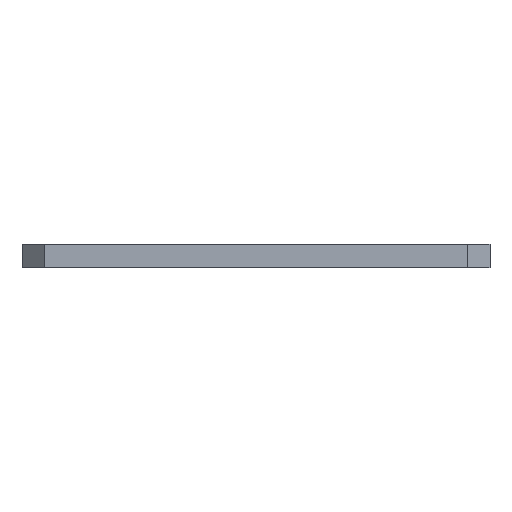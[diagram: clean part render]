
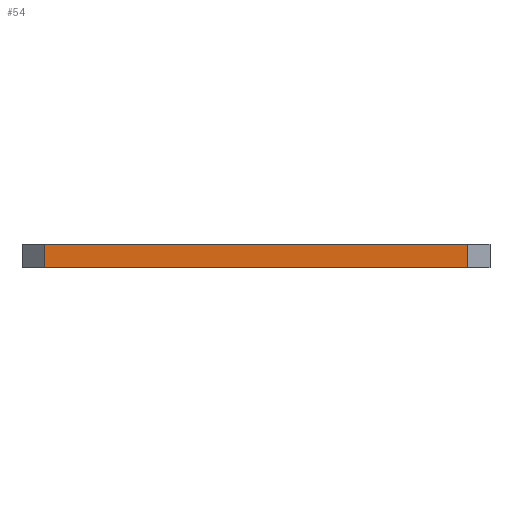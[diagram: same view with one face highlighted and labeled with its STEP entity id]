
A CAD part, left-side view. The second image highlights one B-rep face of the part: STEP entity #54.
In plain terms, the highlighted planar face has unit normal (-1, 0, 0).
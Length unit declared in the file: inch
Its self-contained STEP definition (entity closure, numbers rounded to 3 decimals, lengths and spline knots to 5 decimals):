
#2 = CARTESIAN_POINT ( 'NONE',  ( -1.82444, -0.80125, 0.09 ) ) ;
#54 = ADVANCED_FACE ( 'NONE', ( #1142 ), #1013, .F. ) ;
#136 = LINE ( 'NONE', #1284, #1075 ) ;
#144 = VECTOR ( 'NONE', #1057, 39.37008 ) ;
#147 = DIRECTION ( 'NONE',  ( 0., 0., 1. ) ) ;
#193 = EDGE_CURVE ( 'NONE', #1146, #1440, #1752, .T. ) ;
#266 = CARTESIAN_POINT ( 'NONE',  ( -1.82444, 0.88625, 0.09 ) ) ;
#287 = DIRECTION ( 'NONE',  ( 0., -1., 0. ) ) ;
#395 = LINE ( 'NONE', #2, #1480 ) ;
#441 = CARTESIAN_POINT ( 'NONE',  ( -1.82444, -0.80125, 0.09 ) ) ;
#497 = ORIENTED_EDGE ( 'NONE', *, *, #1753, .T. ) ;
#517 = EDGE_LOOP ( 'NONE', ( #497, #1645, #1208, #929 ) ) ;
#540 = LINE ( 'NONE', #882, #1654 ) ;
#674 = CARTESIAN_POINT ( 'NONE',  ( -1.82444, -0.80125, 0. ) ) ;
#846 = VERTEX_POINT ( 'NONE', #674 ) ;
#882 = CARTESIAN_POINT ( 'NONE',  ( -1.82444, 0.88625, 0. ) ) ;
#929 = ORIENTED_EDGE ( 'NONE', *, *, #193, .T. ) ;
#1013 = PLANE ( 'NONE',  #1405 ) ;
#1057 = DIRECTION ( 'NONE',  ( 0., 0., -1. ) ) ;
#1075 = VECTOR ( 'NONE', #1411, 39.37008 ) ;
#1142 = FACE_OUTER_BOUND ( 'NONE', #517, .T. ) ;
#1146 = VERTEX_POINT ( 'NONE', #1628 ) ;
#1208 = ORIENTED_EDGE ( 'NONE', *, *, #1433, .F. ) ;
#1225 = CARTESIAN_POINT ( 'NONE',  ( -1.82444, 0.80125, 0.09 ) ) ;
#1231 = VERTEX_POINT ( 'NONE', #441 ) ;
#1262 = EDGE_CURVE ( 'NONE', #846, #1231, #395, .T. ) ;
#1279 = CARTESIAN_POINT ( 'NONE',  ( -1.82444, 0.80125, 0. ) ) ;
#1284 = CARTESIAN_POINT ( 'NONE',  ( -1.82444, 0.88625, 0.09 ) ) ;
#1405 = AXIS2_PLACEMENT_3D ( 'NONE', #266, #1637, #1779 ) ;
#1411 = DIRECTION ( 'NONE',  ( 0., -1., 0. ) ) ;
#1433 = EDGE_CURVE ( 'NONE', #1146, #1231, #136, .T. ) ;
#1440 = VERTEX_POINT ( 'NONE', #1279 ) ;
#1480 = VECTOR ( 'NONE', #147, 39.37008 ) ;
#1628 = CARTESIAN_POINT ( 'NONE',  ( -1.82444, 0.80125, 0.09 ) ) ;
#1637 = DIRECTION ( 'NONE',  ( 1., 0., 0. ) ) ;
#1645 = ORIENTED_EDGE ( 'NONE', *, *, #1262, .T. ) ;
#1654 = VECTOR ( 'NONE', #287, 39.37008 ) ;
#1752 = LINE ( 'NONE', #1225, #144 ) ;
#1753 = EDGE_CURVE ( 'NONE', #1440, #846, #540, .T. ) ;
#1779 = DIRECTION ( 'NONE',  ( 0., 0., -1. ) ) ;
